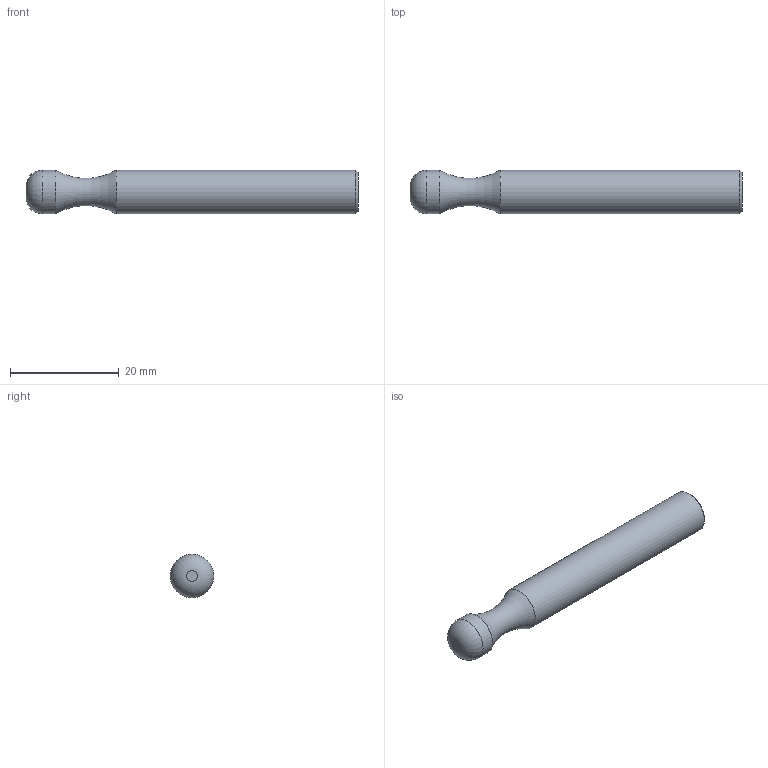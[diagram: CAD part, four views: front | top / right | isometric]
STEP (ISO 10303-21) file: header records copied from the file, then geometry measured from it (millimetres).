
FILE_DESCRIPTION(('STEP AP214'), '1');
FILE_NAME('P1.WSD5080.250.008.002 _ ﾘ', '', ('UNSPECIFIED'), ('UNSPECIFIED'), 'C3D Converter', 'C3D Toolkit', '');
FILE_SCHEMA(('AUTOMOTIVE_DESIGN { 1 0 10303 214 3 1 1}'));
Length unit declared in the file: millimetre
Products named in the file (1): P1.WSD5080.250.008.002
Bounding box: 61 x 8 x 8 mm (x, y, z)
Volume: 2782.7 mm3; surface area: 1530.3 mm2
Topology: 1 solids, 1 shells, 7 faces, 11 edges, 6 vertices
Faces by surface type: plane 2, torus 2, cylinder 2, cone 1
Full cylindrical faces by diameter (mm): 8 x2
Entity records: 169 total; most frequent: DIRECTION 28, CARTESIAN_POINT 20, AXIS2_PLACEMENT_3D 14, EDGE_LOOP 12, ORIENTED_EDGE 12, FACE_OUTER_BOUND 10, ADVANCED_FACE 7, EDGE_CURVE 6
